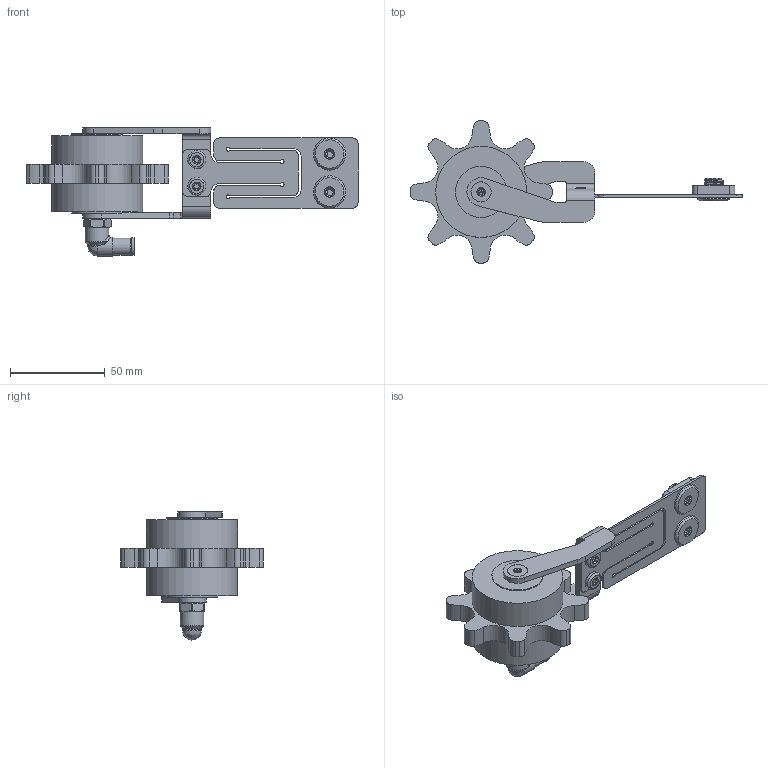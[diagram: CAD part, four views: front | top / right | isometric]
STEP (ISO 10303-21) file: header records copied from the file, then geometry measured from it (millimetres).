
FILE_DESCRIPTION (( 'STEP AP214' ), '1' );
FILE_NAME ('012_06_16B1_C.STEP', '2026-01-20T13:00:41', ( '' ), ( '' ), 'SwSTEP 2.0', 'SolidWorks 2022', '' );
FILE_SCHEMA (( 'AUTOMOTIVE_DESIGN' ));
Length unit declared in the file: millimetre
Products named in the file (10): Montagespange_40_a; 012_06E01_10_Schraube_M10; 012_10_05_Gewindescheibe_M10; 012_06_16B1_C; Senkkopfschraube_M5_ISR; 012E20_070_Federblech; 012_06_16B1_Kettenschmierritzel 16 B-1; 9911_0503_0440_Stckverschr_wkl; 012_06E01_10_Schraube_M5; Rolle_Scheibe_Chain
Assembly tree (11 placements, depth 2):
  012_06_16B1_C
    Montagespange_40_a
    012_06E01_10_Schraube_M5  x2
    9911_0503_0440_Stckverschr_wkl
    012_06E01_10_Schraube_M10  x2
    012E20_070_Federblech
    012_10_05_Gewindescheibe_M10
    Senkkopfschraube_M5_ISR
    Rolle_Scheibe_Chain
    012_06_16B1_Kettenschmierritzel 16 B-1
Bounding box: 175 x 75 x 67.6 mm (x, y, z)
Volume: 13855.5 mm3; surface area: 38334.1 mm2
Topology: 6 solids, 37 shells, 494 faces, 1600 edges, 1153 vertices
Faces by surface type: cylinder 259, plane 132, cone 70, bspline 33
Full cylindrical faces by diameter (mm): 4 x1, 4.2 x3, 4.3 x1, 4.917 x1, 5 x10, 5.1 x3, 8.1 x1, 8.4 x2, 8.511 x1, 9 x1, 9.2 x1, 9.5 x2, 10 x4, 10.1 x2, 12 x4, 12.1 x2, 12.5 x1, 12.9 x1, 14 x1, 16 x1, 17 x2, 27 x2, 48 x2
Entity records: 41606 total; most frequent: CARTESIAN_POINT 26602, ORIENTED_EDGE 2161, DIRECTION 2066, EDGE_CURVE 1266, VERTEX_POINT 978, AXIS2_PLACEMENT_3D 789, EDGE_LOOP 569, VECTOR 488
